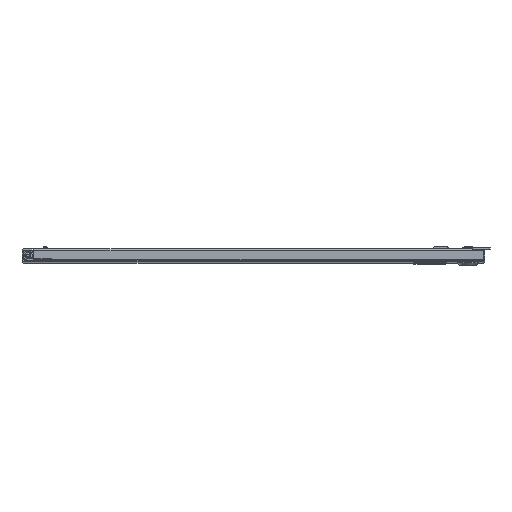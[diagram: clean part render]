
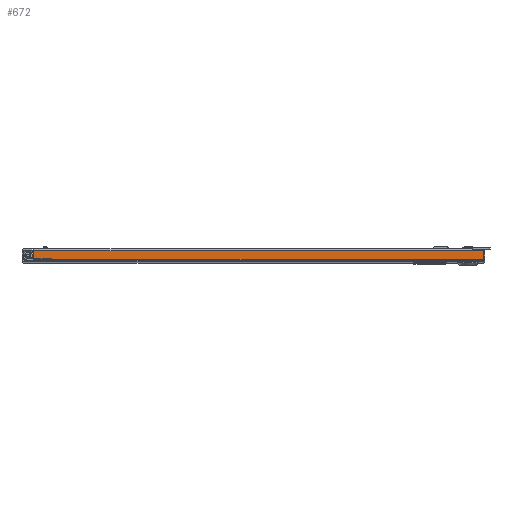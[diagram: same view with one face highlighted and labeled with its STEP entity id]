
A CAD part, top view. The second image highlights one B-rep face of the part: STEP entity #672.
In plain terms, the highlighted planar face has unit normal (0, 0, 1).
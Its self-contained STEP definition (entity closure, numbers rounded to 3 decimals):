
#672 = ADVANCED_FACE( '', ( #1334 ), #1335, .T. );
#1334 = FACE_OUTER_BOUND( '', #2137, .T. );
#1335 = PLANE( '', #2138 );
#2137 = EDGE_LOOP( '', ( #3564, #3565, #3566, #3567, #3568, #3569, #3570 ) );
#2138 = AXIS2_PLACEMENT_3D( '', #3571, #3572, #3573 );
#3564 = ORIENTED_EDGE( '', *, *, #4785, .T. );
#3565 = ORIENTED_EDGE( '', *, *, #4642, .T. );
#3566 = ORIENTED_EDGE( '', *, *, #4571, .F. );
#3567 = ORIENTED_EDGE( '', *, *, #4430, .F. );
#3568 = ORIENTED_EDGE( '', *, *, #4396, .F. );
#3569 = ORIENTED_EDGE( '', *, *, #4386, .T. );
#3570 = ORIENTED_EDGE( '', *, *, #4518, .T. );
#3571 = CARTESIAN_POINT( '', ( -233.604, 1.181, 530.225 ) );
#3572 = DIRECTION( '', ( 0., 0., 1. ) );
#3573 = DIRECTION( '', ( 0., -1., 0. ) );
#4386 = EDGE_CURVE( '', #5208, #5205, #5209, .T. );
#4396 = EDGE_CURVE( '', #5208, #5226, #5227, .T. );
#4430 = EDGE_CURVE( '', #5226, #5285, #5286, .T. );
#4518 = EDGE_CURVE( '', #5205, #5425, #5427, .T. );
#4571 = EDGE_CURVE( '', #5285, #5504, #5505, .T. );
#4642 = EDGE_CURVE( '', #5611, #5504, #5612, .T. );
#4785 = EDGE_CURVE( '', #5425, #5611, #5798, .T. );
#5205 = VERTEX_POINT( '', #6414 );
#5208 = VERTEX_POINT( '', #6417 );
#5209 = LINE( '', #6418, #6419 );
#5226 = VERTEX_POINT( '', #6441 );
#5227 = LINE( '', #6442, #6443 );
#5285 = VERTEX_POINT( '', #6528 );
#5286 = LINE( '', #6529, #6530 );
#5425 = VERTEX_POINT( '', #6734 );
#5427 = LINE( '', #6736, #6737 );
#5504 = VERTEX_POINT( '', #6868 );
#5505 = LINE( '', #6869, #6870 );
#5611 = VERTEX_POINT( '', #7019 );
#5612 = LINE( '', #7020, #7021 );
#5798 = LINE( '', #7319, #7320 );
#6414 = CARTESIAN_POINT( '', ( -233.604, 2.184, 530.225 ) );
#6417 = CARTESIAN_POINT( '', ( -233.604, 11.303, 530.225 ) );
#6418 = CARTESIAN_POINT( '', ( -233.604, 1.181, 530.225 ) );
#6419 = VECTOR( '', #7717, 1000. );
#6441 = CARTESIAN_POINT( '', ( 232.156, 11.303, 530.225 ) );
#6442 = CARTESIAN_POINT( '', ( 232.156, 11.303, 530.225 ) );
#6443 = VECTOR( '', #7732, 1000. );
#6528 = CARTESIAN_POINT( '', ( 232.158, 11.303, 530.225 ) );
#6529 = CARTESIAN_POINT( '', ( 232.156, 11.303, 530.225 ) );
#6530 = VECTOR( '', #7763, 1000. );
#6734 = CARTESIAN_POINT( '', ( 243.256, 2.184, 530.225 ) );
#6736 = CARTESIAN_POINT( '', ( -233.604, 2.184, 530.225 ) );
#6737 = VECTOR( '', #7866, 1000. );
#6868 = CARTESIAN_POINT( '', ( 232.158, 12.04, 530.225 ) );
#6869 = CARTESIAN_POINT( '', ( 232.158, 11.303, 530.225 ) );
#6870 = VECTOR( '', #7915, 1000. );
#7019 = CARTESIAN_POINT( '', ( 243.256, 12.04, 530.225 ) );
#7020 = CARTESIAN_POINT( '', ( 244.729, 12.04, 530.225 ) );
#7021 = VECTOR( '', #8005, 1000. );
#7319 = CARTESIAN_POINT( '', ( 243.256, 1.181, 530.225 ) );
#7320 = VECTOR( '', #8138, 1000. );
#7717 = DIRECTION( '', ( 0., -1., 0. ) );
#7732 = DIRECTION( '', ( 1., 0., 0. ) );
#7763 = DIRECTION( '', ( 1., 0., 0. ) );
#7866 = DIRECTION( '', ( 1., 0., 0. ) );
#7915 = DIRECTION( '', ( 0., 1., 0. ) );
#8005 = DIRECTION( '', ( -1., 0., 0. ) );
#8138 = DIRECTION( '', ( 0., 1., 0. ) );
